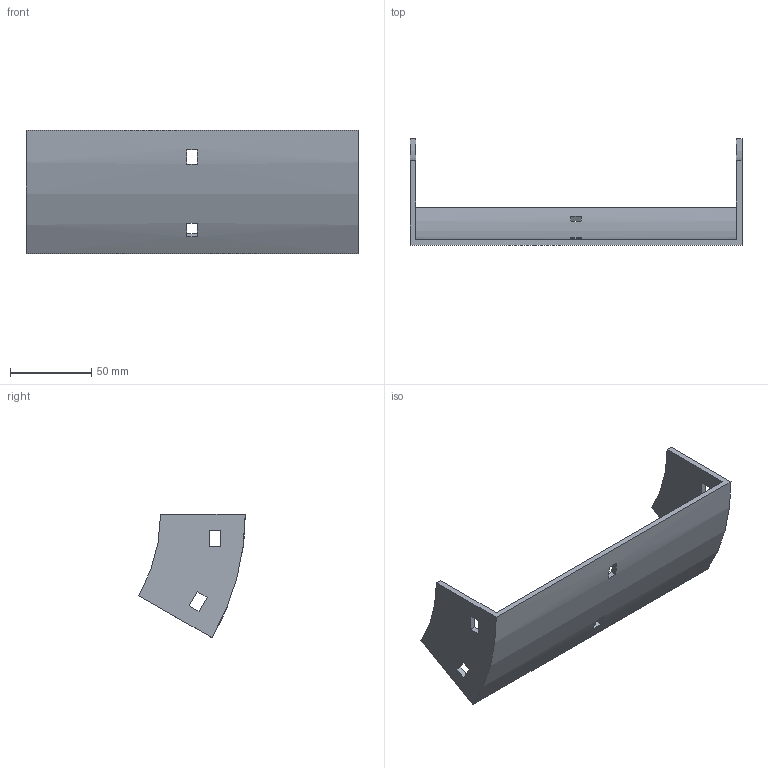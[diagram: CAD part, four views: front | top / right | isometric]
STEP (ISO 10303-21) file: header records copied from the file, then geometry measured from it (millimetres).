
FILE_DESCRIPTION (( 'STEP AP214' ), '1' );
FILE_NAME ('32B1B200.step', '2025-02-21T09:43:30', ( '' ), ( '' ), 'SwSTEP 2.0', 'SolidWorks 2023', '' );
FILE_SCHEMA (( 'AUTOMOTIVE_DESIGN' ));
Length unit declared in the file: millimetre
Products named in the file (1): 32B1B200
Bounding box: 204 x 65.4 x 76 mm (x, y, z)
Volume: 76865.7 mm3; surface area: 47097.6 mm2
Topology: 1 solids, 1 shells, 34 faces, 96 edges, 64 vertices
Faces by surface type: plane 30, cylinder 4
Entity records: 1143 total; most frequent: CARTESIAN_POINT 195, ORIENTED_EDGE 192, DIRECTION 182, EDGE_CURVE 96, VECTOR 80, LINE 80, VERTEX_POINT 64, AXIS2_PLACEMENT_3D 51
